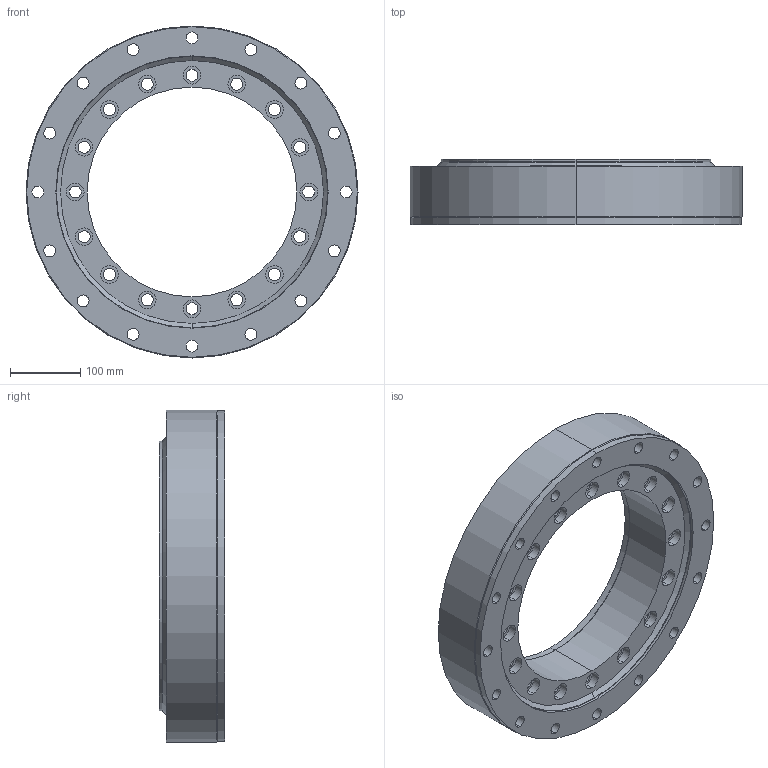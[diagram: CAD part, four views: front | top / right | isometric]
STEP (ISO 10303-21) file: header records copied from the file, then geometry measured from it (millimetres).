
FILE_DESCRIPTION (( 'STEP AP203' ), '1' );
FILE_NAME ('B2220-0-0472BB.STEP', '2022-04-29T06:50:05', ( '' ), ( '' ), 'SwSTEP 2.0', 'SolidWorks 2020', '' );
FILE_SCHEMA (( 'CONFIG_CONTROL_DESIGN' ));
Length unit declared in the file: millimetre
Products named in the file (1): B2220-0-0472BB
Bounding box: 472 x 93 x 472 mm (x, y, z)
Volume: 7854362 mm3; surface area: 854406.6 mm2
Topology: 4 solids, 4 shells, 207 faces, 478 edges, 316 vertices
Faces by surface type: cylinder 152, plane 45, cone 10
Entity records: 6259 total; most frequent: DIRECTION 1210, CARTESIAN_POINT 1002, ORIENTED_EDGE 956, AXIS2_PLACEMENT_3D 524, EDGE_CURVE 478, VERTEX_POINT 316, CIRCLE 316, EDGE_LOOP 316
